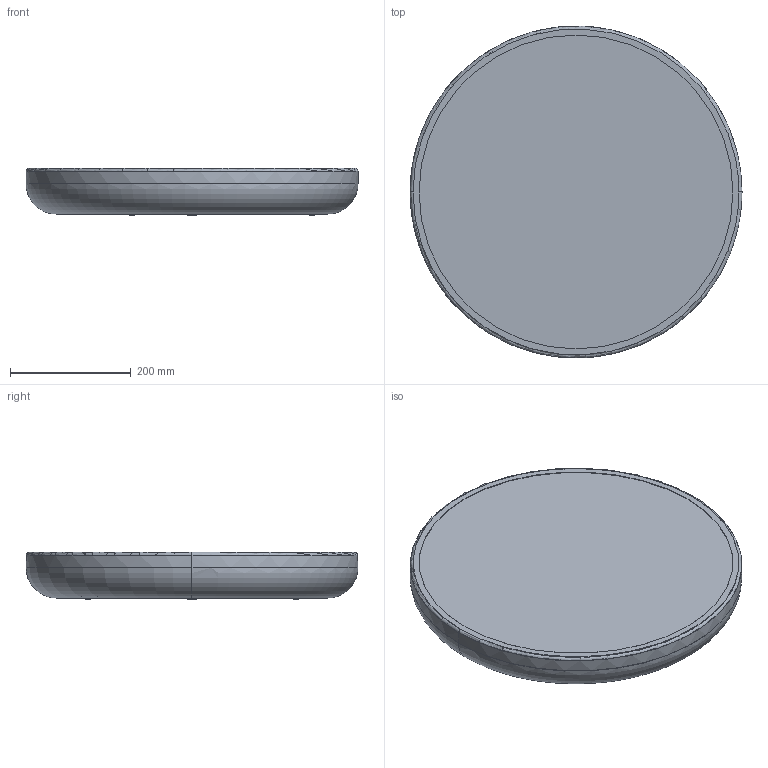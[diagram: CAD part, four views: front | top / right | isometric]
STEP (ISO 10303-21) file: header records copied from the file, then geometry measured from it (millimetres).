
FILE_DESCRIPTION(/* description */ (''),/* implementation_level */ '2;1');
FILE_NAME(/* name */ 'C:\Users\Franco Sartori E\Documents\FARO\DUPLICADO\Modelos\01_Digitalizados\1_3D_2D\1_COCOTTE\03_Publicación\64182 - Vista 3D - Export.stp',/* time_stamp */ '2020-07-28T09:27:52+02:00',/* author */ ('Franco Sartori E'),/* organization */ (''),/* preprocessor_version */ 'ST-DEVELOPER v18',/* originating_system */ 'AutoCAD Mechanical',/* authorisation */ '');
FILE_SCHEMA (('AUTOMOTIVE_DESIGN { 1 0 10303 214 3 1 1 }'));
Length unit declared in the file: millimetre
Products named in the file (2): Product; 64182_64183_COCOTE - COCOTE-447500-Export
Assembly tree (1 placements, depth 2):
  Product
    64182_64183_COCOTE - COCOTE-447500-Export
Bounding box: 550 x 549.44 x 79.08 mm (x, y, z)
Volume: 808141.6 mm3; surface area: 1162899.7 mm2
Topology: 3 solids, 3 shells, 78 faces, 166 edges, 100 vertices
Faces by surface type: torus 30, cylinder 28, plane 12, cone 8
Entity records: 4024 total; most frequent: CARTESIAN_POINT 2339, DIRECTION 338, ORIENTED_EDGE 332, EDGE_CURVE 166, AXIS2_PLACEMENT_3D 151, VERTEX_POINT 100, EDGE_LOOP 94, FACE_OUTER_BOUND 78
